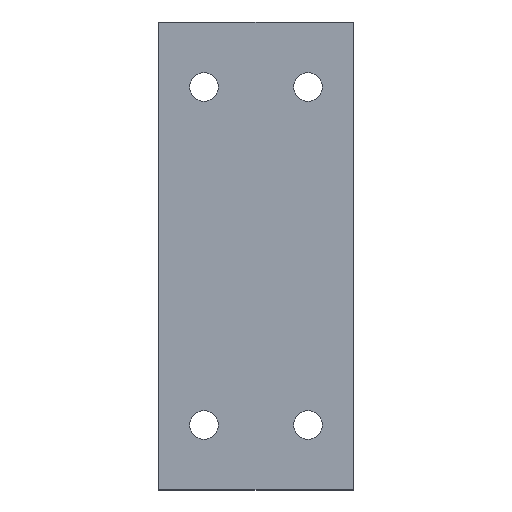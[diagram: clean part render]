
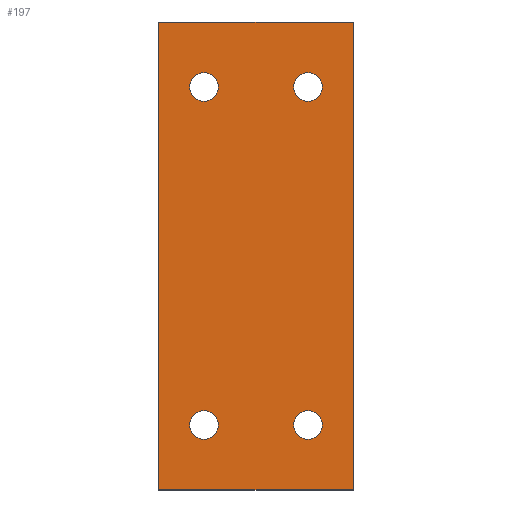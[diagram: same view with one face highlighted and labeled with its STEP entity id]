
A CAD part, top view. The second image highlights one B-rep face of the part: STEP entity #197.
In plain terms, the highlighted planar face has unit normal (0, 0, 1).
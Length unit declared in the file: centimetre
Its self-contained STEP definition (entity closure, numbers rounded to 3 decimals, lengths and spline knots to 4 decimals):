
#15=FACE_BOUND('',#48,.T.);
#16=FACE_BOUND('',#49,.T.);
#17=FACE_BOUND('',#50,.T.);
#18=FACE_BOUND('',#51,.T.);
#27=PLANE('',#229);
#37=FACE_OUTER_BOUND('',#47,.T.);
#47=EDGE_LOOP('',(#169,#170,#171,#172));
#48=EDGE_LOOP('',(#173));
#49=EDGE_LOOP('',(#174));
#50=EDGE_LOOP('',(#175));
#51=EDGE_LOOP('',(#176));
#61=LINE('',#313,#77);
#65=LINE('',#321,#81);
#68=LINE('',#327,#84);
#71=LINE('',#332,#87);
#77=VECTOR('',#263,1.);
#81=VECTOR('',#269,1.);
#84=VECTOR('',#274,1.);
#87=VECTOR('',#279,1.);
#90=CIRCLE('',#215,0.11);
#92=CIRCLE('',#218,0.11);
#94=CIRCLE('',#221,0.11);
#96=CIRCLE('',#224,0.11);
#98=VERTEX_POINT('',#289);
#100=VERTEX_POINT('',#295);
#102=VERTEX_POINT('',#301);
#104=VERTEX_POINT('',#307);
#105=VERTEX_POINT('',#311);
#106=VERTEX_POINT('',#312);
#109=VERTEX_POINT('',#320);
#111=VERTEX_POINT('',#326);
#115=EDGE_CURVE('',#98,#98,#90,.T.);
#118=EDGE_CURVE('',#100,#100,#92,.T.);
#121=EDGE_CURVE('',#102,#102,#94,.T.);
#124=EDGE_CURVE('',#104,#104,#96,.T.);
#125=EDGE_CURVE('',#105,#106,#61,.T.);
#129=EDGE_CURVE('',#106,#109,#65,.T.);
#132=EDGE_CURVE('',#109,#111,#68,.T.);
#135=EDGE_CURVE('',#111,#105,#71,.T.);
#169=ORIENTED_EDGE('',*,*,#135,.T.);
#170=ORIENTED_EDGE('',*,*,#125,.T.);
#171=ORIENTED_EDGE('',*,*,#129,.T.);
#172=ORIENTED_EDGE('',*,*,#132,.T.);
#173=ORIENTED_EDGE('',*,*,#115,.T.);
#174=ORIENTED_EDGE('',*,*,#118,.T.);
#175=ORIENTED_EDGE('',*,*,#121,.T.);
#176=ORIENTED_EDGE('',*,*,#124,.T.);
#197=ADVANCED_FACE('',(#37,#15,#16,#17,#18),#27,.T.);
#215=AXIS2_PLACEMENT_3D('',#291,#238,#239);
#218=AXIS2_PLACEMENT_3D('',#297,#245,#246);
#221=AXIS2_PLACEMENT_3D('',#303,#252,#253);
#224=AXIS2_PLACEMENT_3D('',#309,#259,#260);
#229=AXIS2_PLACEMENT_3D('',#334,#281,#282);
#238=DIRECTION('center_axis',(0.,0.,-1.));
#239=DIRECTION('ref_axis',(1.,0.,0.));
#245=DIRECTION('center_axis',(0.,0.,-1.));
#246=DIRECTION('ref_axis',(1.,0.,0.));
#252=DIRECTION('center_axis',(0.,0.,-1.));
#253=DIRECTION('ref_axis',(1.,0.,0.));
#259=DIRECTION('center_axis',(0.,0.,-1.));
#260=DIRECTION('ref_axis',(1.,0.,0.));
#263=DIRECTION('',(1.,0.,0.));
#269=DIRECTION('',(0.,1.,0.));
#274=DIRECTION('',(-1.,0.,0.));
#279=DIRECTION('',(0.,-1.,0.));
#281=DIRECTION('center_axis',(0.,0.,1.));
#282=DIRECTION('ref_axis',(1.,0.,0.));
#289=CARTESIAN_POINT('',(1.34,-1.3,4.42));
#291=CARTESIAN_POINT('Origin',(1.45,-1.3,4.42));
#295=CARTESIAN_POINT('',(0.54,1.3,4.42));
#297=CARTESIAN_POINT('Origin',(0.65,1.3,4.42));
#301=CARTESIAN_POINT('',(0.54,-1.3,4.42));
#303=CARTESIAN_POINT('Origin',(0.65,-1.3,4.42));
#307=CARTESIAN_POINT('',(1.34,1.3,4.42));
#309=CARTESIAN_POINT('Origin',(1.45,1.3,4.42));
#311=CARTESIAN_POINT('',(0.3,-1.8,4.42));
#312=CARTESIAN_POINT('',(1.8,-1.8,4.42));
#313=CARTESIAN_POINT('',(0.3,-1.8,4.42));
#320=CARTESIAN_POINT('',(1.8,1.8,4.42));
#321=CARTESIAN_POINT('',(1.8,-1.8,4.42));
#326=CARTESIAN_POINT('',(0.3,1.8,4.42));
#327=CARTESIAN_POINT('',(1.8,1.8,4.42));
#332=CARTESIAN_POINT('',(0.3,1.8,4.42));
#334=CARTESIAN_POINT('Origin',(1.05,0.,4.42));
